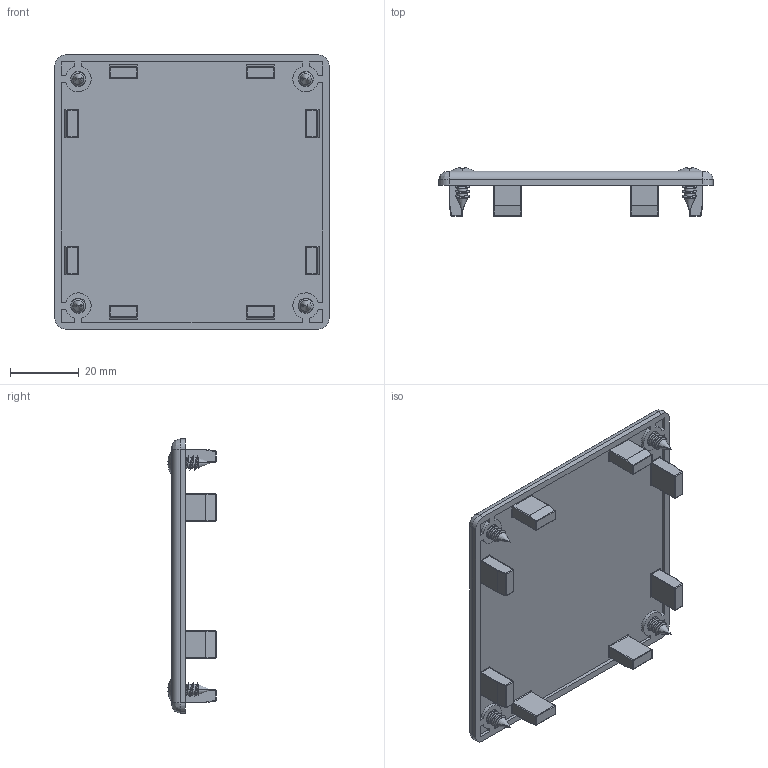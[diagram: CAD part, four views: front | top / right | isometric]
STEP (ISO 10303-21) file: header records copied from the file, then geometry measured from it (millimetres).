
FILE_DESCRIPTION (( 'STEP AP214' ), '1' );
FILE_NAME ('11485_KANAABDSTZ8080.STEP', '2017-03-02T14:56:31', ( '' ), ( '' ), 'SwSTEP 2.0', 'SolidWorks 2016', '' );
FILE_SCHEMA (( 'AUTOMOTIVE_DESIGN' ));
Length unit declared in the file: millimetre
Products named in the file (3): 11485_KANAABDSTZ8080; 11485-01-0000-00_kanal_abdeckkappensatz_80x80; 50059_blechschraube_dm4_2x9_5
Assembly tree (5 placements, depth 2):
  11485_KANAABDSTZ8080
    11485-01-0000-00_kanal_abdeckkappensatz_80x80
    50059_blechschraube_dm4_2x9_5  x4
Bounding box: 80 x 14.06 x 80 mm (x, y, z)
Volume: 22080.8 mm3; surface area: 17157.8 mm2
Topology: 5 solids, 5 shells, 573 faces, 1418 edges, 820 vertices
Faces by surface type: cylinder 206, plane 159, bspline 108, cone 100
Entity records: 12768 total; most frequent: CARTESIAN_POINT 3663, ORIENTED_EDGE 1752, DIRECTION 1751, EDGE_CURVE 876, AXIS2_PLACEMENT_3D 672, VERTEX_POINT 508, EDGE_LOOP 416, VECTOR 407
